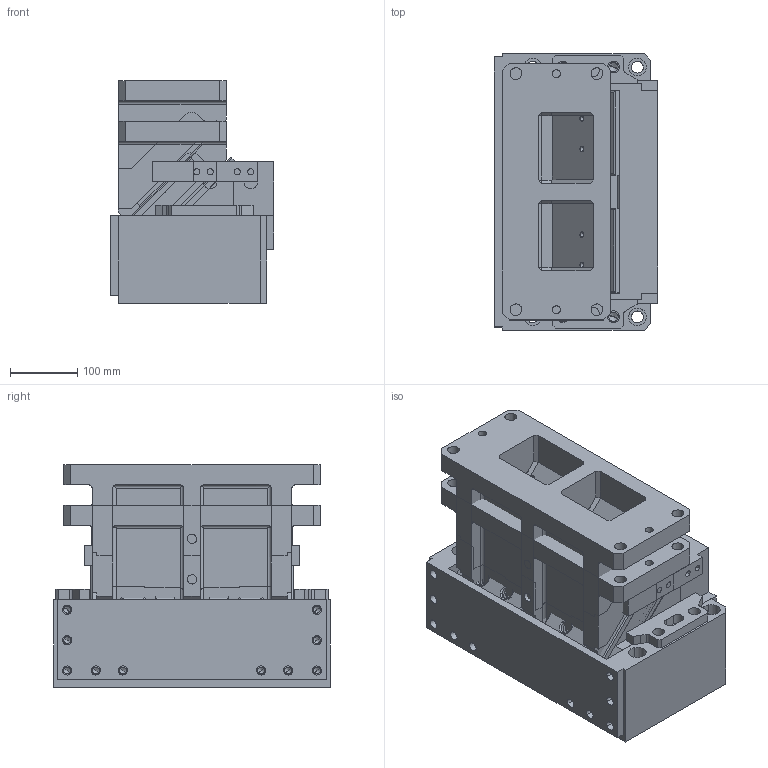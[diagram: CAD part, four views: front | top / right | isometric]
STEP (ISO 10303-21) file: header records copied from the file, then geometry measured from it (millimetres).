
FILE_DESCRIPTION(('CATIA V5 STEP','CAx-IF Rec.Pracs.--- Model Styling and Organization---1.4--- 2014-01-23','CAx-IF Rec.Pracs.---3D Tessellated Data Validation Properties---0.5---2014-09-14'),'2;1');
FILE_NAME('H:\_COMPRESS_2\2016.14.00.300.060.1.2__CM.stp','2020-11-18T12:57:08+00:00',('${USER}'),('AUDI AG, ${GROUP}'),'CATIA Version 5-6 Release 2018 SP3 HF27','CATIA V5 STEP AP242','none');
FILE_SCHEMA(('AP242_MANAGED_MODEL_BASED_3D_ENGINEERING_MIM_LF {1 0 10303 442 1 1 4}'));
Length unit declared in the file: millimetre
Products named in the file (1): 2016.14.00.300.060.1.2__CM
Bounding box: 242 x 410 x 330 mm (x, y, z)
Volume: 25797262.4 mm3; surface area: 1752246.9 mm2
Topology: 4 solids, 12 shells, 1167 faces, 2791 edges, 1732 vertices
Faces by surface type: plane 570, cylinder 451, cone 76, torus 64, sphere 4, bspline 2
Entity records: 32278 total; most frequent: CARTESIAN_POINT 7322, ORIENTED_EDGE 5472, DIRECTION 4159, EDGE_CURVE 2736, VERTEX_POINT 1728, AXIS2_PLACEMENT_3D 1680, VECTOR 1673, LINE 1673
